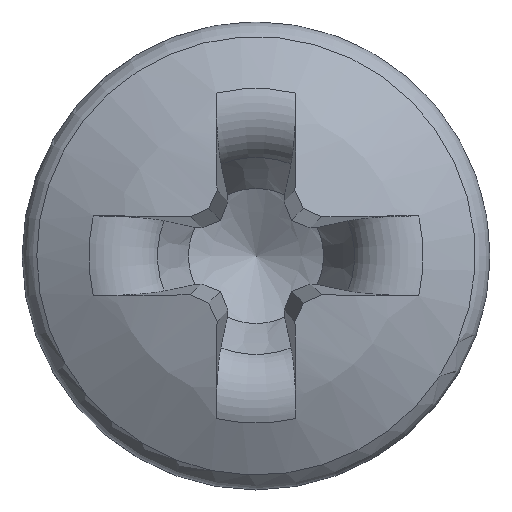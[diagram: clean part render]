
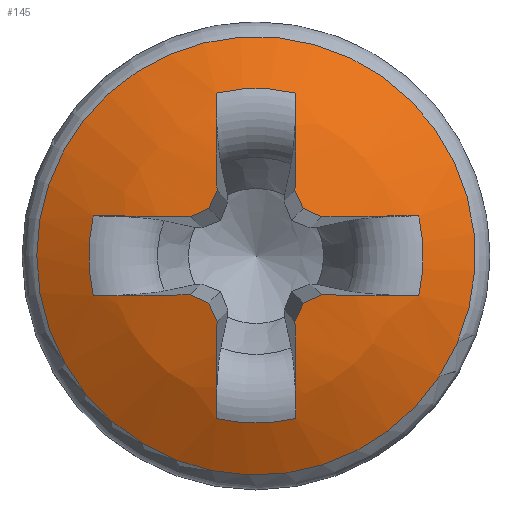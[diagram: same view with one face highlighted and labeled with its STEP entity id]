
A CAD part, top view. The second image highlights one B-rep face of the part: STEP entity #145.
In plain terms, the highlighted spherical face has radius 3.899 mm.
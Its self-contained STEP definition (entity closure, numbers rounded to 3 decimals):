
#116=SPHERICAL_SURFACE('',#881,3.899);
#127=FACE_BOUND('',#246,.T.);
#128=FACE_BOUND('',#247,.T.);
#145=ADVANCED_FACE('',(#127,#128),#116,.T.);
#246=EDGE_LOOP('',(#355));
#247=EDGE_LOOP('',(#356,#357,#358,#359,#360,#361,#362,#363,#364,#365,#366,
#367,#368,#369,#370,#371,#372,#373,#374,#375));
#305=CIRCLE('',#860,2.062);
#306=CIRCLE('',#861,3.899);
#307=CIRCLE('',#862,1.575);
#308=CIRCLE('',#863,3.899);
#309=CIRCLE('',#864,3.897);
#310=CIRCLE('',#865,3.897);
#311=CIRCLE('',#866,3.899);
#312=CIRCLE('',#867,1.575);
#313=CIRCLE('',#868,3.899);
#314=CIRCLE('',#869,3.897);
#315=CIRCLE('',#870,3.897);
#316=CIRCLE('',#871,3.899);
#317=CIRCLE('',#872,1.575);
#318=CIRCLE('',#873,3.899);
#319=CIRCLE('',#874,3.897);
#320=CIRCLE('',#875,3.897);
#321=CIRCLE('',#876,3.899);
#322=CIRCLE('',#877,1.575);
#323=CIRCLE('',#878,3.899);
#324=CIRCLE('',#879,3.897);
#325=CIRCLE('',#880,3.897);
#355=ORIENTED_EDGE('',*,*,#683,.T.);
#356=ORIENTED_EDGE('',*,*,#684,.F.);
#357=ORIENTED_EDGE('',*,*,#685,.T.);
#358=ORIENTED_EDGE('',*,*,#686,.F.);
#359=ORIENTED_EDGE('',*,*,#687,.F.);
#360=ORIENTED_EDGE('',*,*,#688,.F.);
#361=ORIENTED_EDGE('',*,*,#689,.F.);
#362=ORIENTED_EDGE('',*,*,#690,.T.);
#363=ORIENTED_EDGE('',*,*,#691,.F.);
#364=ORIENTED_EDGE('',*,*,#692,.F.);
#365=ORIENTED_EDGE('',*,*,#693,.F.);
#366=ORIENTED_EDGE('',*,*,#694,.F.);
#367=ORIENTED_EDGE('',*,*,#695,.T.);
#368=ORIENTED_EDGE('',*,*,#696,.F.);
#369=ORIENTED_EDGE('',*,*,#697,.F.);
#370=ORIENTED_EDGE('',*,*,#698,.F.);
#371=ORIENTED_EDGE('',*,*,#699,.F.);
#372=ORIENTED_EDGE('',*,*,#700,.T.);
#373=ORIENTED_EDGE('',*,*,#701,.F.);
#374=ORIENTED_EDGE('',*,*,#702,.F.);
#375=ORIENTED_EDGE('',*,*,#703,.F.);
#599=VERTEX_POINT('',#1377);
#600=VERTEX_POINT('',#1379);
#601=VERTEX_POINT('',#1380);
#602=VERTEX_POINT('',#1382);
#603=VERTEX_POINT('',#1384);
#604=VERTEX_POINT('',#1386);
#605=VERTEX_POINT('',#1388);
#606=VERTEX_POINT('',#1390);
#607=VERTEX_POINT('',#1392);
#608=VERTEX_POINT('',#1394);
#609=VERTEX_POINT('',#1396);
#610=VERTEX_POINT('',#1398);
#611=VERTEX_POINT('',#1400);
#612=VERTEX_POINT('',#1402);
#613=VERTEX_POINT('',#1404);
#614=VERTEX_POINT('',#1406);
#615=VERTEX_POINT('',#1408);
#616=VERTEX_POINT('',#1410);
#617=VERTEX_POINT('',#1412);
#618=VERTEX_POINT('',#1414);
#619=VERTEX_POINT('',#1416);
#683=EDGE_CURVE('',#599,#599,#305,.T.);
#684=EDGE_CURVE('',#600,#601,#306,.T.);
#685=EDGE_CURVE('',#600,#602,#307,.T.);
#686=EDGE_CURVE('',#603,#602,#308,.T.);
#687=EDGE_CURVE('',#604,#603,#309,.T.);
#688=EDGE_CURVE('',#605,#604,#310,.T.);
#689=EDGE_CURVE('',#606,#605,#311,.T.);
#690=EDGE_CURVE('',#606,#607,#312,.T.);
#691=EDGE_CURVE('',#608,#607,#313,.T.);
#692=EDGE_CURVE('',#609,#608,#314,.T.);
#693=EDGE_CURVE('',#610,#609,#315,.T.);
#694=EDGE_CURVE('',#611,#610,#316,.T.);
#695=EDGE_CURVE('',#611,#612,#317,.T.);
#696=EDGE_CURVE('',#613,#612,#318,.T.);
#697=EDGE_CURVE('',#614,#613,#319,.T.);
#698=EDGE_CURVE('',#615,#614,#320,.T.);
#699=EDGE_CURVE('',#616,#615,#321,.T.);
#700=EDGE_CURVE('',#616,#617,#322,.T.);
#701=EDGE_CURVE('',#618,#617,#323,.T.);
#702=EDGE_CURVE('',#619,#618,#324,.T.);
#703=EDGE_CURVE('',#601,#619,#325,.T.);
#860=AXIS2_PLACEMENT_3D('',#1376,#943,#944);
#861=AXIS2_PLACEMENT_3D('',#1378,#945,#946);
#862=AXIS2_PLACEMENT_3D('',#1381,#947,#948);
#863=AXIS2_PLACEMENT_3D('',#1383,#949,#950);
#864=AXIS2_PLACEMENT_3D('',#1385,#951,#952);
#865=AXIS2_PLACEMENT_3D('',#1387,#953,#954);
#866=AXIS2_PLACEMENT_3D('',#1389,#955,#956);
#867=AXIS2_PLACEMENT_3D('',#1391,#957,#958);
#868=AXIS2_PLACEMENT_3D('',#1393,#959,#960);
#869=AXIS2_PLACEMENT_3D('',#1395,#961,#962);
#870=AXIS2_PLACEMENT_3D('',#1397,#963,#964);
#871=AXIS2_PLACEMENT_3D('',#1399,#965,#966);
#872=AXIS2_PLACEMENT_3D('',#1401,#967,#968);
#873=AXIS2_PLACEMENT_3D('',#1403,#969,#970);
#874=AXIS2_PLACEMENT_3D('',#1405,#971,#972);
#875=AXIS2_PLACEMENT_3D('',#1407,#973,#974);
#876=AXIS2_PLACEMENT_3D('',#1409,#975,#976);
#877=AXIS2_PLACEMENT_3D('',#1411,#977,#978);
#878=AXIS2_PLACEMENT_3D('',#1413,#979,#980);
#879=AXIS2_PLACEMENT_3D('',#1415,#981,#982);
#880=AXIS2_PLACEMENT_3D('',#1417,#983,#984);
#881=AXIS2_PLACEMENT_3D('',#1418,#985,#986);
#943=DIRECTION('',(0.,0.,1.));
#944=DIRECTION('',(-1.,0.,0.));
#945=DIRECTION('',(-0.035,0.996,0.087));
#946=DIRECTION('',(0.,-0.087,0.996));
#947=DIRECTION('',(0.,0.,-1.));
#948=DIRECTION('',(-1.,0.,0.));
#949=DIRECTION('',(-0.035,-0.996,0.087));
#950=DIRECTION('',(0.,-0.087,-0.996));
#951=DIRECTION('',(0.404,-0.907,0.122));
#952=DIRECTION('',(0.914,0.407,0.));
#953=DIRECTION('',(0.907,-0.404,0.122));
#954=DIRECTION('',(0.407,0.914,0.));
#955=DIRECTION('',(0.996,0.035,0.087));
#956=DIRECTION('',(0.087,0.,-0.996));
#957=DIRECTION('',(0.,0.,-1.));
#958=DIRECTION('',(-1.,0.,0.));
#959=DIRECTION('',(-0.996,0.035,0.087));
#960=DIRECTION('',(0.087,0.,0.996));
#961=DIRECTION('',(-0.907,-0.404,0.122));
#962=DIRECTION('',(0.407,-0.914,0.));
#963=DIRECTION('',(-0.404,-0.907,0.122));
#964=DIRECTION('',(0.914,-0.407,0.));
#965=DIRECTION('',(0.035,-0.996,0.087));
#966=DIRECTION('',(0.,-0.087,-0.996));
#967=DIRECTION('',(0.,0.,-1.));
#968=DIRECTION('',(-1.,0.,0.));
#969=DIRECTION('',(0.035,0.996,0.087));
#970=DIRECTION('',(0.,-0.087,0.996));
#971=DIRECTION('',(-0.404,0.907,0.122));
#972=DIRECTION('',(-0.914,-0.407,0.));
#973=DIRECTION('',(-0.907,0.404,0.122));
#974=DIRECTION('',(-0.407,-0.914,0.));
#975=DIRECTION('',(-0.996,-0.035,0.087));
#976=DIRECTION('',(0.087,0.,0.996));
#977=DIRECTION('',(0.,0.,-1.));
#978=DIRECTION('',(-1.,0.,0.));
#979=DIRECTION('',(0.996,-0.035,0.087));
#980=DIRECTION('',(0.087,0.,-0.996));
#981=DIRECTION('',(0.907,0.404,0.122));
#982=DIRECTION('',(-0.407,0.914,0.));
#983=DIRECTION('',(0.404,0.907,0.122));
#984=DIRECTION('',(-0.914,0.407,0.));
#985=DIRECTION('',(0.,0.,1.));
#986=DIRECTION('',(0.,1.,0.));
#1376=CARTESIAN_POINT('',(0.,0.,1.11));
#1377=CARTESIAN_POINT('',(-2.062,0.,1.11));
#1378=CARTESIAN_POINT('',(0.,-0.009,-2.2));
#1379=CARTESIAN_POINT('',(-1.53,-0.375,1.368));
#1380=CARTESIAN_POINT('',(-0.617,-0.366,1.633));
#1381=CARTESIAN_POINT('',(0.,0.,1.368));
#1382=CARTESIAN_POINT('',(-1.53,0.375,1.368));
#1383=CARTESIAN_POINT('',(0.,0.009,-2.2));
#1384=CARTESIAN_POINT('',(-0.617,0.366,1.633));
#1385=CARTESIAN_POINT('',(-0.046,0.104,-2.213));
#1386=CARTESIAN_POINT('',(-0.445,0.445,1.649));
#1387=CARTESIAN_POINT('',(-0.104,0.046,-2.213));
#1388=CARTESIAN_POINT('',(-0.366,0.617,1.633));
#1389=CARTESIAN_POINT('',(-0.009,0.,-2.2));
#1390=CARTESIAN_POINT('',(-0.375,1.53,1.368));
#1391=CARTESIAN_POINT('',(0.,0.,1.368));
#1392=CARTESIAN_POINT('',(0.375,1.53,1.368));
#1393=CARTESIAN_POINT('',(0.009,0.,-2.2));
#1394=CARTESIAN_POINT('',(0.366,0.617,1.633));
#1395=CARTESIAN_POINT('',(0.104,0.046,-2.213));
#1396=CARTESIAN_POINT('',(0.445,0.445,1.649));
#1397=CARTESIAN_POINT('',(0.046,0.104,-2.213));
#1398=CARTESIAN_POINT('',(0.617,0.366,1.633));
#1399=CARTESIAN_POINT('',(0.,0.009,-2.2));
#1400=CARTESIAN_POINT('',(1.53,0.375,1.368));
#1401=CARTESIAN_POINT('',(0.,0.,1.368));
#1402=CARTESIAN_POINT('',(1.53,-0.375,1.368));
#1403=CARTESIAN_POINT('',(0.,-0.009,-2.2));
#1404=CARTESIAN_POINT('',(0.617,-0.366,1.633));
#1405=CARTESIAN_POINT('',(0.046,-0.104,-2.213));
#1406=CARTESIAN_POINT('',(0.445,-0.445,1.649));
#1407=CARTESIAN_POINT('',(0.104,-0.046,-2.213));
#1408=CARTESIAN_POINT('',(0.366,-0.617,1.633));
#1409=CARTESIAN_POINT('',(0.009,0.,-2.2));
#1410=CARTESIAN_POINT('',(0.375,-1.53,1.368));
#1411=CARTESIAN_POINT('',(0.,0.,1.368));
#1412=CARTESIAN_POINT('',(-0.375,-1.53,1.368));
#1413=CARTESIAN_POINT('',(-0.009,0.,-2.2));
#1414=CARTESIAN_POINT('',(-0.366,-0.617,1.633));
#1415=CARTESIAN_POINT('',(-0.104,-0.046,-2.213));
#1416=CARTESIAN_POINT('',(-0.445,-0.445,1.649));
#1417=CARTESIAN_POINT('',(-0.046,-0.104,-2.213));
#1418=CARTESIAN_POINT('',(0.,0.,-2.199));
